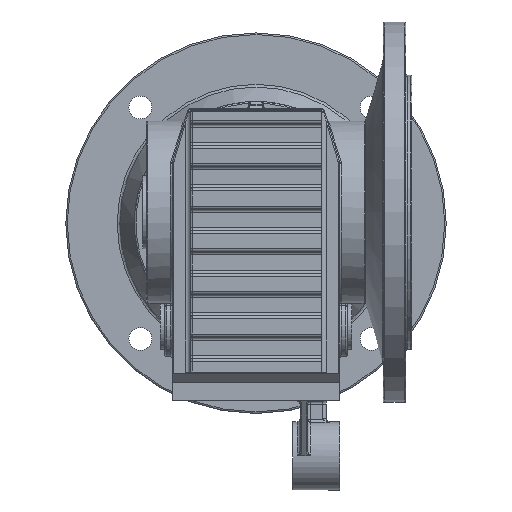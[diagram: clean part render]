
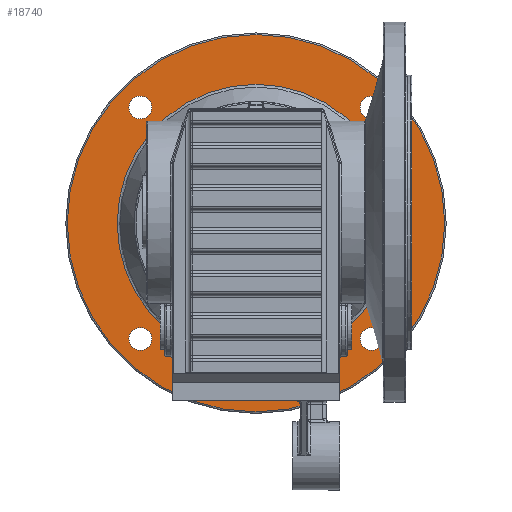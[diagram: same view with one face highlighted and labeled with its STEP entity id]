
A CAD part, left-side view. The second image highlights one B-rep face of the part: STEP entity #18740.
In plain terms, the highlighted planar face has unit normal (-1, 0, 0).
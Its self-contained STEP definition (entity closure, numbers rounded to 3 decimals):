
#18454=CARTESIAN_POINT('',(78.5,83.514,-76.014));
#18455=VERTEX_POINT('',#18454);
#18456=CARTESIAN_POINT('',(78.5,76.014,-76.014));
#18457=DIRECTION('',(1.0,0.0,0.0));
#18458=DIRECTION('',(0.0,1.0,0.0));
#18459=AXIS2_PLACEMENT_3D('',#18456,#18457,#18458);
#18460=CIRCLE('',#18459,7.5);
#18461=EDGE_CURVE('',#18455,#18455,#18460,.T.);
#18503=CARTESIAN_POINT('',(78.5,-68.514,-76.014));
#18504=VERTEX_POINT('',#18503);
#18505=CARTESIAN_POINT('',(78.5,-76.014,-76.014));
#18506=DIRECTION('',(1.0,0.0,0.0));
#18507=DIRECTION('',(0.0,1.0,0.0));
#18508=AXIS2_PLACEMENT_3D('',#18505,#18506,#18507);
#18509=CIRCLE('',#18508,7.5);
#18510=EDGE_CURVE('',#18504,#18504,#18509,.T.);
#18552=CARTESIAN_POINT('',(78.5,-68.514,76.014));
#18553=VERTEX_POINT('',#18552);
#18554=CARTESIAN_POINT('',(78.5,-76.014,76.014));
#18555=DIRECTION('',(1.0,0.0,0.0));
#18556=DIRECTION('',(0.0,1.0,0.0));
#18557=AXIS2_PLACEMENT_3D('',#18554,#18555,#18556);
#18558=CIRCLE('',#18557,7.5);
#18559=EDGE_CURVE('',#18553,#18553,#18558,.T.);
#18601=CARTESIAN_POINT('',(78.5,83.514,76.014));
#18602=VERTEX_POINT('',#18601);
#18603=CARTESIAN_POINT('',(78.5,76.014,76.014));
#18604=DIRECTION('',(1.0,0.0,0.0));
#18605=DIRECTION('',(0.0,1.0,0.0));
#18606=AXIS2_PLACEMENT_3D('',#18603,#18604,#18605);
#18607=CIRCLE('',#18606,7.5);
#18608=EDGE_CURVE('',#18602,#18602,#18607,.T.);
#18677=CARTESIAN_POINT('',(78.5,91.224,0.));
#18678=VERTEX_POINT('',#18677);
#18679=CARTESIAN_POINT('',(78.5,0.0,0.0));
#18680=DIRECTION('',(-1.0,0.0,0.0));
#18681=DIRECTION('',(0.0,-1.0,0.0));
#18682=AXIS2_PLACEMENT_3D('',#18679,#18680,#18681);
#18683=CIRCLE('',#18682,91.224);
#18684=EDGE_CURVE('',#18678,#18678,#18683,.T.);
#18709=CARTESIAN_POINT('',(78.5,107.5,0.));
#18710=DIRECTION('',(-1.0,0.0,0.0));
#18711=DIRECTION('',(0.0,0.0,1.0));
#18712=AXIS2_PLACEMENT_3D('',#18709,#18710,#18711);
#18713=PLANE('',#18712);
#18714=CARTESIAN_POINT('',(78.5,124.0,0.0));
#18715=VERTEX_POINT('',#18714);
#18716=CARTESIAN_POINT('',(78.5,0.0,0.0));
#18717=DIRECTION('',(1.0,0.0,0.0));
#18718=DIRECTION('',(0.0,-1.0,0.0));
#18719=AXIS2_PLACEMENT_3D('',#18716,#18717,#18718);
#18720=CIRCLE('',#18719,124.0);
#18721=EDGE_CURVE('',#18715,#18715,#18720,.T.);
#18722=ORIENTED_EDGE('',*,*,#18721,.F.);
#18723=EDGE_LOOP('',(#18722));
#18724=FACE_OUTER_BOUND('',#18723,.T.);
#18725=ORIENTED_EDGE('',*,*,#18461,.T.);
#18726=EDGE_LOOP('',(#18725));
#18727=FACE_BOUND('',#18726,.T.);
#18728=ORIENTED_EDGE('',*,*,#18510,.T.);
#18729=EDGE_LOOP('',(#18728));
#18730=FACE_BOUND('',#18729,.T.);
#18731=ORIENTED_EDGE('',*,*,#18559,.T.);
#18732=EDGE_LOOP('',(#18731));
#18733=FACE_BOUND('',#18732,.T.);
#18734=ORIENTED_EDGE('',*,*,#18608,.T.);
#18735=EDGE_LOOP('',(#18734));
#18736=FACE_BOUND('',#18735,.T.);
#18737=ORIENTED_EDGE('',*,*,#18684,.F.);
#18738=EDGE_LOOP('',(#18737));
#18739=FACE_BOUND('',#18738,.T.);
#18740=ADVANCED_FACE('',(#18724,#18727,#18730,#18733,#18736,#18739),#18713,.T.);
